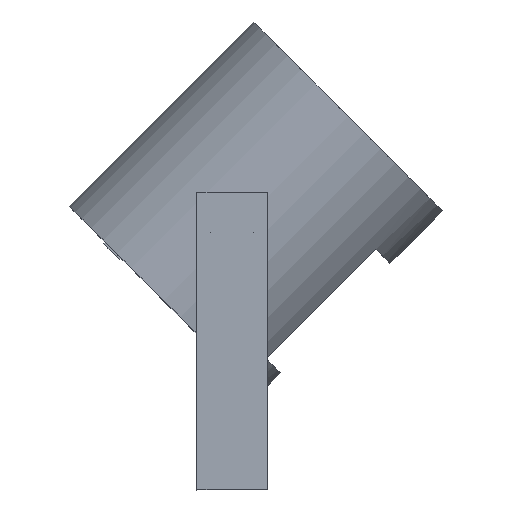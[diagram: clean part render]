
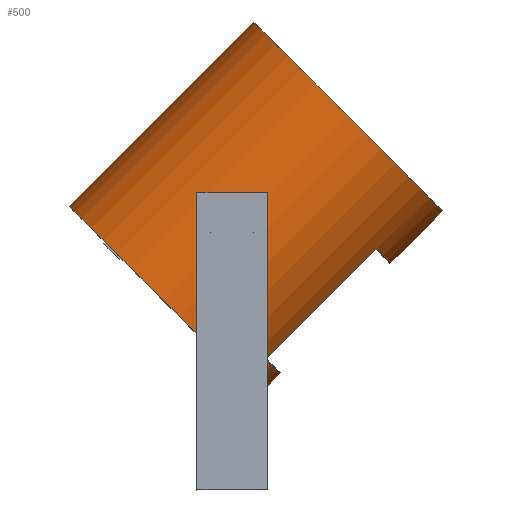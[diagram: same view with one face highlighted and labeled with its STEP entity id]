
A CAD part, top view. The second image highlights one B-rep face of the part: STEP entity #500.
In plain terms, the highlighted cylindrical face has radius 88.642 mm (diameter 177.283 mm), a full revolution.
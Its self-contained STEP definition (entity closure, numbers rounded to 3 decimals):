
#27=FACE_BOUND('',#107,.T.);
#28=FACE_BOUND('',#108,.T.);
#73=FACE_OUTER_BOUND('',#106,.T.);
#106=EDGE_LOOP('',(#392,#393,#394,#395));
#107=EDGE_LOOP('',(#396,#397));
#108=EDGE_LOOP('',(#398,#399,#400,#401));
#136=CIRCLE('',#605,88.642);
#137=CIRCLE('',#607,88.642);
#140=CIRCLE('',#614,88.642);
#141=CIRCLE('',#615,88.642);
#165=LINE('',#881,#212);
#166=LINE('',#882,#213);
#168=LINE('',#894,#215);
#212=VECTOR('',#692,10.);
#213=VECTOR('',#693,10.);
#215=VECTOR('',#707,88.642);
#244=B_SPLINE_CURVE_WITH_KNOTS('',3,(#805,#806,#807,#808,#809,#810,#811,
#812,#813,#814,#815,#816,#817,#818,#819,#820,#821,#822),.UNSPECIFIED.,.F.,
 .F.,(4,2,2,2,2,2,2,2,4),(0.,0.546,1.092,1.638,
2.184,2.73,3.275,3.821,4.367),
 .UNSPECIFIED.);
#245=B_SPLINE_CURVE_WITH_KNOTS('',3,(#823,#824,#825,#826,#827,#828,#829,
#830,#831,#832,#833,#834,#835,#836,#837,#838,#839,#840),.UNSPECIFIED.,.F.,
 .F.,(4,2,2,2,2,2,2,2,4),(4.367,4.913,5.459,
6.005,6.551,7.097,7.643,8.189,
8.734),.UNSPECIFIED.);
#246=VERTEX_POINT('',#803);
#247=VERTEX_POINT('',#804);
#257=VERTEX_POINT('',#871);
#258=VERTEX_POINT('',#872);
#259=VERTEX_POINT('',#876);
#260=VERTEX_POINT('',#877);
#263=VERTEX_POINT('',#891);
#264=VERTEX_POINT('',#893);
#289=EDGE_CURVE('',#246,#247,#244,.T.);
#290=EDGE_CURVE('',#247,#246,#245,.T.);
#305=EDGE_CURVE('',#257,#258,#136,.T.);
#307=EDGE_CURVE('',#259,#260,#137,.T.);
#309=EDGE_CURVE('',#260,#257,#165,.T.);
#310=EDGE_CURVE('',#258,#259,#166,.T.);
#314=EDGE_CURVE('',#263,#263,#140,.T.);
#315=EDGE_CURVE('',#263,#264,#168,.T.);
#316=EDGE_CURVE('',#264,#264,#141,.T.);
#392=ORIENTED_EDGE('',*,*,#314,.F.);
#393=ORIENTED_EDGE('',*,*,#315,.T.);
#394=ORIENTED_EDGE('',*,*,#316,.T.);
#395=ORIENTED_EDGE('',*,*,#315,.F.);
#396=ORIENTED_EDGE('',*,*,#289,.T.);
#397=ORIENTED_EDGE('',*,*,#290,.T.);
#398=ORIENTED_EDGE('',*,*,#307,.T.);
#399=ORIENTED_EDGE('',*,*,#309,.T.);
#400=ORIENTED_EDGE('',*,*,#305,.T.);
#401=ORIENTED_EDGE('',*,*,#310,.T.);
#483=CYLINDRICAL_SURFACE('',#613,88.642);
#500=ADVANCED_FACE('',(#73,#27,#28),#483,.T.);
#605=AXIS2_PLACEMENT_3D('',#873,#682,#683);
#607=AXIS2_PLACEMENT_3D('',#878,#687,#688);
#613=AXIS2_PLACEMENT_3D('',#890,#703,#704);
#614=AXIS2_PLACEMENT_3D('',#892,#705,#706);
#615=AXIS2_PLACEMENT_3D('',#895,#708,#709);
#682=DIRECTION('center_axis',(0.,1.,0.));
#683=DIRECTION('ref_axis',(1.,0.,0.));
#687=DIRECTION('center_axis',(0.,-1.,0.));
#688=DIRECTION('ref_axis',(1.,0.,0.));
#692=DIRECTION('',(0.,1.,0.));
#693=DIRECTION('',(0.,-1.,0.));
#703=DIRECTION('center_axis',(0.,1.,0.));
#704=DIRECTION('ref_axis',(1.,0.,0.));
#705=DIRECTION('center_axis',(0.,1.,0.));
#706=DIRECTION('ref_axis',(1.,0.,0.));
#707=DIRECTION('',(0.,-1.,0.));
#708=DIRECTION('center_axis',(0.,1.,0.));
#709=DIRECTION('ref_axis',(1.,0.,0.));
#803=CARTESIAN_POINT('',(14.464,64.068,-87.454));
#804=CARTESIAN_POINT('',(-14.464,64.068,-87.454));
#805=CARTESIAN_POINT('Ctrl Pts',(14.464,64.068,-87.454));
#806=CARTESIAN_POINT('Ctrl Pts',(14.464,65.888,-87.454));
#807=CARTESIAN_POINT('Ctrl Pts',(14.1,67.826,-87.516));
#808=CARTESIAN_POINT('Ctrl Pts',(12.623,71.389,-87.742));
#809=CARTESIAN_POINT('Ctrl Pts',(11.51,73.013,-87.901));
#810=CARTESIAN_POINT('Ctrl Pts',(8.946,75.578,-88.199));
#811=CARTESIAN_POINT('Ctrl Pts',(7.321,76.691,-88.357));
#812=CARTESIAN_POINT('Ctrl Pts',(3.758,78.168,-88.58));
#813=CARTESIAN_POINT('Ctrl Pts',(1.82,78.532,-88.642));
#814=CARTESIAN_POINT('Ctrl Pts',(-1.82,78.532,-88.642));
#815=CARTESIAN_POINT('Ctrl Pts',(-3.758,78.168,-88.58));
#816=CARTESIAN_POINT('Ctrl Pts',(-7.321,76.691,-88.357));
#817=CARTESIAN_POINT('Ctrl Pts',(-8.946,75.578,-88.199));
#818=CARTESIAN_POINT('Ctrl Pts',(-11.51,73.013,-87.901));
#819=CARTESIAN_POINT('Ctrl Pts',(-12.623,71.389,-87.742));
#820=CARTESIAN_POINT('Ctrl Pts',(-14.1,67.826,-87.516));
#821=CARTESIAN_POINT('Ctrl Pts',(-14.464,65.888,-87.454));
#822=CARTESIAN_POINT('Ctrl Pts',(-14.464,64.068,-87.454));
#823=CARTESIAN_POINT('Ctrl Pts',(-14.464,64.068,-87.454));
#824=CARTESIAN_POINT('Ctrl Pts',(-14.464,62.248,-87.454));
#825=CARTESIAN_POINT('Ctrl Pts',(-14.1,60.309,-87.516));
#826=CARTESIAN_POINT('Ctrl Pts',(-12.623,56.747,-87.742));
#827=CARTESIAN_POINT('Ctrl Pts',(-11.51,55.122,-87.901));
#828=CARTESIAN_POINT('Ctrl Pts',(-8.946,52.558,-88.199));
#829=CARTESIAN_POINT('Ctrl Pts',(-7.321,51.445,-88.357));
#830=CARTESIAN_POINT('Ctrl Pts',(-3.758,49.968,-88.58));
#831=CARTESIAN_POINT('Ctrl Pts',(-1.82,49.603,-88.642));
#832=CARTESIAN_POINT('Ctrl Pts',(1.82,49.603,-88.642));
#833=CARTESIAN_POINT('Ctrl Pts',(3.758,49.968,-88.58));
#834=CARTESIAN_POINT('Ctrl Pts',(7.321,51.445,-88.357));
#835=CARTESIAN_POINT('Ctrl Pts',(8.946,52.558,-88.199));
#836=CARTESIAN_POINT('Ctrl Pts',(11.51,55.122,-87.901));
#837=CARTESIAN_POINT('Ctrl Pts',(12.623,56.747,-87.742));
#838=CARTESIAN_POINT('Ctrl Pts',(14.1,60.309,-87.516));
#839=CARTESIAN_POINT('Ctrl Pts',(14.464,62.248,-87.454));
#840=CARTESIAN_POINT('Ctrl Pts',(14.464,64.068,-87.454));
#871=CARTESIAN_POINT('',(75.247,123.757,46.853));
#872=CARTESIAN_POINT('',(75.247,123.757,-46.853));
#873=CARTESIAN_POINT('Origin',(0.,123.757,0.));
#876=CARTESIAN_POINT('',(75.247,21.,-46.853));
#877=CARTESIAN_POINT('',(75.247,21.,46.853));
#878=CARTESIAN_POINT('Origin',(0.,21.,0.));
#881=CARTESIAN_POINT('',(75.247,0.,46.853));
#882=CARTESIAN_POINT('',(75.247,0.,-46.853));
#890=CARTESIAN_POINT('Origin',(0.,0.,
0.));
#891=CARTESIAN_POINT('',(-88.642,173.,0.));
#892=CARTESIAN_POINT('Origin',(0.,173.,0.));
#893=CARTESIAN_POINT('',(-88.642,0.,0.));
#894=CARTESIAN_POINT('',(-88.642,0.,0.));
#895=CARTESIAN_POINT('Origin',(0.,0.,
0.));
